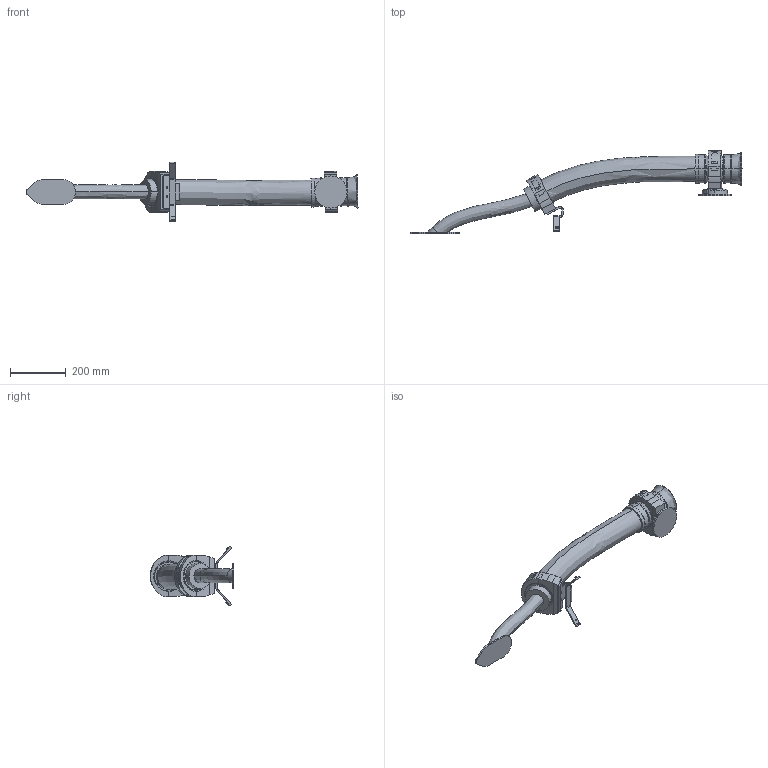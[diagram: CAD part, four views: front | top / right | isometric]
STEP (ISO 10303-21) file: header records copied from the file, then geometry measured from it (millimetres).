
FILE_DESCRIPTION (( 'STEP AP214' ), '1' );
FILE_NAME ('IRB7710-LID_All-310_OC_01_LINK04_CABLE.step', '2026-01-28T09:15:24', ( '' ), ( '' ), 'SwSTEP 2.0', 'SolidWorks 2024', '' );
FILE_SCHEMA (( 'AUTOMOTIVE_DESIGN' ));
Length unit declared in the file: millimetre
Products named in the file (1): IRB7710-LID_All-310_OC_01_LINK04_CABLE
Bounding box: 1186.81 x 298.49 x 213.34 mm (x, y, z)
Volume: 7113625.4 mm3; surface area: 458509.2 mm2
Topology: 1 solids, 2 shells, 391 faces, 981 edges, 624 vertices
Faces by surface type: plane 201, cylinder 130, sphere 24, cone 20, bspline 14, torus 2
Entity records: 19998 total; most frequent: CARTESIAN_POINT 6358, ORIENTED_EDGE 1956, DIRECTION 1953, EDGE_CURVE 978, AXIS2_PLACEMENT_3D 734, VERTEX_POINT 623, VECTOR 485, LINE 485
